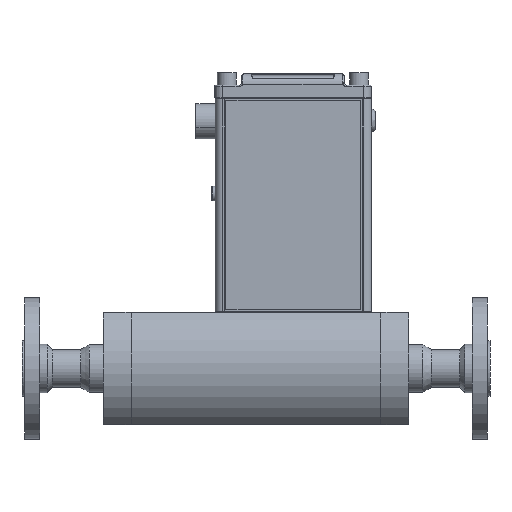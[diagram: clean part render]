
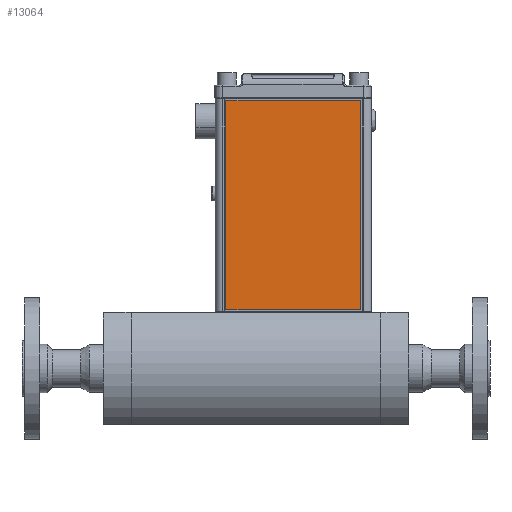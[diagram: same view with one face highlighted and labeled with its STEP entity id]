
A CAD part, front view. The second image highlights one B-rep face of the part: STEP entity #13064.
In plain terms, the highlighted planar face has unit normal (0, -1, 0).
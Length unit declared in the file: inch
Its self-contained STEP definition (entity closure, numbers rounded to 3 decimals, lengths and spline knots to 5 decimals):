
#145 = AXIS2_PLACEMENT_3D ( 'NONE', #13388, #6292, #14967 ) ;
#2484 = DIRECTION ( 'NONE',  ( 0., 0., -1. ) ) ;
#2633 = VECTOR ( 'NONE', #11728, 39.37008 ) ;
#3203 = ORIENTED_EDGE ( 'NONE', *, *, #12196, .T. ) ;
#3278 = EDGE_LOOP ( 'NONE', ( #27530, #3203, #26561, #24718 ) ) ;
#3764 = DIRECTION ( 'NONE',  ( 1., 0., 0. ) ) ;
#4152 = VECTOR ( 'NONE', #14382, 39.37008 ) ;
#4721 = PLANE ( 'NONE',  #145 ) ;
#5176 = CARTESIAN_POINT ( 'NONE',  ( -0.38822, -0.25061, 1.07514 ) ) ;
#6292 = DIRECTION ( 'NONE',  ( 0., -1., 0. ) ) ;
#7442 = CARTESIAN_POINT ( 'NONE',  ( 1.27678, -0.25061, 6.24514 ) ) ;
#7733 = CARTESIAN_POINT ( 'NONE',  ( 1.27678, -0.25061, 1.07514 ) ) ;
#9592 = EDGE_CURVE ( 'NONE', #13535, #17218, #16976, .T. ) ;
#9827 = CARTESIAN_POINT ( 'NONE',  ( 2.94178, -0.25061, 1.07514 ) ) ;
#9968 = LINE ( 'NONE', #9827, #4152 ) ;
#10081 = VECTOR ( 'NONE', #3764, 39.37008 ) ;
#11728 = DIRECTION ( 'NONE',  ( -1., 0., 0. ) ) ;
#11867 = LINE ( 'NONE', #7442, #2633 ) ;
#12196 = EDGE_CURVE ( 'NONE', #17218, #24364, #18552, .T. ) ;
#13064 = ADVANCED_FACE ( 'NONE', ( #25712 ), #4721, .T. ) ;
#13199 = CARTESIAN_POINT ( 'NONE',  ( -0.38822, -0.25061, 6.24514 ) ) ;
#13388 = CARTESIAN_POINT ( 'NONE',  ( 1.27678, -0.25061, 1.07514 ) ) ;
#13535 = VERTEX_POINT ( 'NONE', #13199 ) ;
#14382 = DIRECTION ( 'NONE',  ( 0., 0., 1. ) ) ;
#14967 = DIRECTION ( 'NONE',  ( 0., 0., -1. ) ) ;
#15007 = CARTESIAN_POINT ( 'NONE',  ( 2.94178, -0.25061, 6.24514 ) ) ;
#16976 = LINE ( 'NONE', #17267, #22213 ) ;
#17218 = VERTEX_POINT ( 'NONE', #5176 ) ;
#17267 = CARTESIAN_POINT ( 'NONE',  ( -0.38822, -0.25061, 1.07514 ) ) ;
#17670 = CARTESIAN_POINT ( 'NONE',  ( 2.94178, -0.25061, 1.07514 ) ) ;
#18552 = LINE ( 'NONE', #7733, #10081 ) ;
#20899 = VERTEX_POINT ( 'NONE', #15007 ) ;
#21148 = EDGE_CURVE ( 'NONE', #20899, #13535, #11867, .T. ) ;
#22213 = VECTOR ( 'NONE', #2484, 39.37008 ) ;
#24364 = VERTEX_POINT ( 'NONE', #17670 ) ;
#24602 = EDGE_CURVE ( 'NONE', #24364, #20899, #9968, .T. ) ;
#24718 = ORIENTED_EDGE ( 'NONE', *, *, #21148, .T. ) ;
#25712 = FACE_OUTER_BOUND ( 'NONE', #3278, .T. ) ;
#26561 = ORIENTED_EDGE ( 'NONE', *, *, #24602, .T. ) ;
#27530 = ORIENTED_EDGE ( 'NONE', *, *, #9592, .T. ) ;
